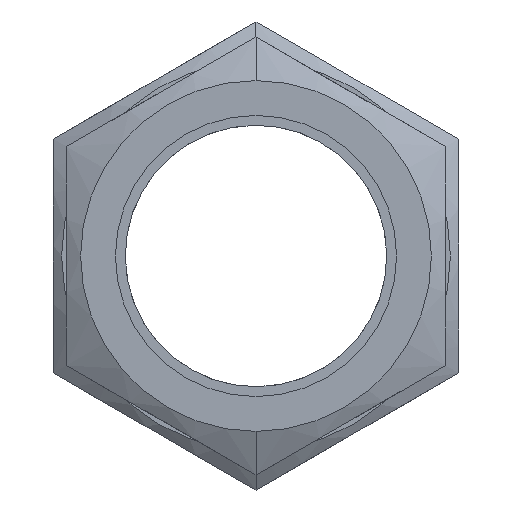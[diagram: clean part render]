
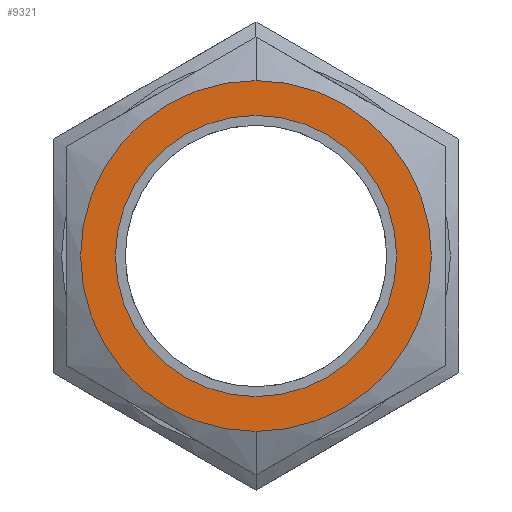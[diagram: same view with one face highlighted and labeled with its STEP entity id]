
A CAD part, left-side view. The second image highlights one B-rep face of the part: STEP entity #9321.
In plain terms, the highlighted planar face has unit normal (-1, 0, 0).
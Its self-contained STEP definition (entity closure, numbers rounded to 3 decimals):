
#4313 = CARTESIAN_POINT ( 'NONE',  ( -813.508, 0., 71.953 ) ) ;
#4314 = DIRECTION ( 'NONE',  ( 1., 0., 0. ) ) ;
#4315 = DIRECTION ( 'NONE',  ( 0., 0., 1. ) ) ;
#4573 = CARTESIAN_POINT ( 'NONE',  ( -813.508, 0., 98.787 ) ) ;
#4589 = CARTESIAN_POINT ( 'NONE',  ( -813.508, 0., 45.119 ) ) ;
#6947 = CARTESIAN_POINT ( 'NONE',  ( -813.508, 0., 71.953 ) ) ;
#6948 = DIRECTION ( 'NONE',  ( 1., 0., 0. ) ) ;
#6949 = DIRECTION ( 'NONE',  ( 0., 0., 1. ) ) ;
#8295 = CARTESIAN_POINT ( 'NONE',  ( -813.508, -21.5, 71.953 ) ) ;
#8299 = FACE_BOUND ( 'NONE', #11930, .T. ) ;
#8300 = FACE_OUTER_BOUND ( 'NONE', #11940, .T. ) ;
#8301 = PLANE ( 'NONE',  #15919 ) ;
#8303 = DIRECTION ( 'NONE',  ( 1., 0., 0. ) ) ;
#8304 = DIRECTION ( 'NONE',  ( 0., 0., 1. ) ) ;
#8565 = CARTESIAN_POINT ( 'NONE',  ( -813.508, 0., 93.453 ) ) ;
#8602 = CARTESIAN_POINT ( 'NONE',  ( -813.508, 0., 50.453 ) ) ;
#9321 = ADVANCED_FACE ( 'NONE', ( #8299, #8300 ), #8301, .F. ) ;
#9493 = EDGE_CURVE ( 'NONE', #17009, #12664, #16006, .T. ) ;
#9653 = EDGE_CURVE ( 'NONE', #12664, #17009, #15617, .T. ) ;
#9669 = EDGE_CURVE ( 'NONE', #12629, #12638, #15605, .T. ) ;
#9789 = EDGE_CURVE ( 'NONE', #12638, #12629, #15621, .T. ) ;
#11930 = EDGE_LOOP ( 'NONE', ( #12417, #12418 ) ) ;
#11940 = EDGE_LOOP ( 'NONE', ( #12419, #12420 ) ) ;
#12417 = ORIENTED_EDGE ( 'NONE', *, *, #9653, .T. ) ;
#12418 = ORIENTED_EDGE ( 'NONE', *, *, #9493, .T. ) ;
#12419 = ORIENTED_EDGE ( 'NONE', *, *, #9789, .F. ) ;
#12420 = ORIENTED_EDGE ( 'NONE', *, *, #9669, .F. ) ;
#12629 = VERTEX_POINT ( 'NONE', #4589 ) ;
#12638 = VERTEX_POINT ( 'NONE', #4573 ) ;
#12664 = VERTEX_POINT ( 'NONE', #8565 ) ;
#13595 = CARTESIAN_POINT ( 'NONE',  ( -813.508, 0., 71.953 ) ) ;
#13596 = DIRECTION ( 'NONE',  ( 1., 0., 0. ) ) ;
#13597 = DIRECTION ( 'NONE',  ( 0., 0., 1. ) ) ;
#13713 = CARTESIAN_POINT ( 'NONE',  ( -813.508, 0., 71.953 ) ) ;
#13714 = DIRECTION ( 'NONE',  ( 1., 0., 0. ) ) ;
#13715 = DIRECTION ( 'NONE',  ( 0., 0., 1. ) ) ;
#15603 = AXIS2_PLACEMENT_3D ( 'NONE', #13713, #13714, #13715 ) ;
#15605 = CIRCLE ( 'NONE', #15603, 26.834 ) ;
#15613 = AXIS2_PLACEMENT_3D ( 'NONE', #13595, #13596, #13597 ) ;
#15617 = CIRCLE ( 'NONE', #15613, 21.5 ) ;
#15621 = CIRCLE ( 'NONE', #15632, 26.834 ) ;
#15632 = AXIS2_PLACEMENT_3D ( 'NONE', #4313, #4314, #4315 ) ;
#15919 = AXIS2_PLACEMENT_3D ( 'NONE', #8295, #8303, #8304 ) ;
#16004 = AXIS2_PLACEMENT_3D ( 'NONE', #6947, #6948, #6949 ) ;
#16006 = CIRCLE ( 'NONE', #16004, 21.5 ) ;
#17009 = VERTEX_POINT ( 'NONE', #8602 ) ;
